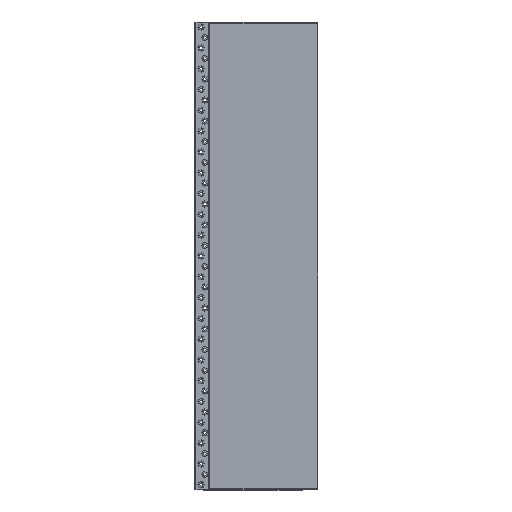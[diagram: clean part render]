
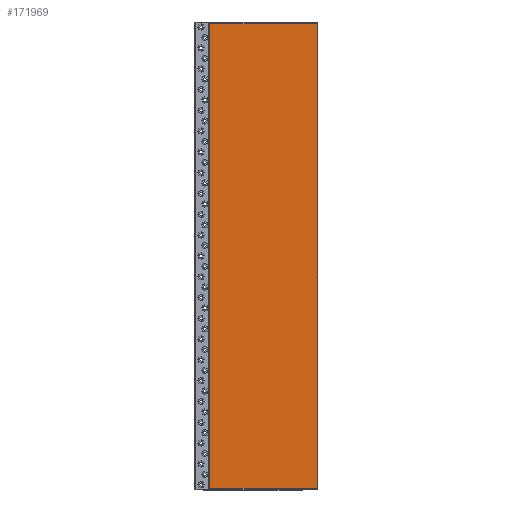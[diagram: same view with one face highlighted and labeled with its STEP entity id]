
A CAD part, top view. The second image highlights one B-rep face of the part: STEP entity #171969.
In plain terms, the highlighted planar face has unit normal (0, 0, 1).
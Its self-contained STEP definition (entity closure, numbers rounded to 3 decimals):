
#171655 = VERTEX_POINT('',#171656);
#171656 = CARTESIAN_POINT('',(12645.662,3.,
    0.));
#171663 = PLANE('',#171664);
#171664 = AXIS2_PLACEMENT_3D('',#171665,#171666,#171667);
#171665 = CARTESIAN_POINT('',(12645.662,3.,
    -25.));
#171666 = DIRECTION('',(0.,1.,0.));
#171667 = DIRECTION('',(1.,0.,0.));
#171675 = PLANE('',#171676);
#171676 = AXIS2_PLACEMENT_3D('',#171677,#171678,#171679);
#171677 = CARTESIAN_POINT('',(12645.662,897.,
    -25.));
#171678 = DIRECTION('',(1.,0.,0.));
#171679 = DIRECTION('',(0.,-1.,0.));
#171687 = EDGE_CURVE('',#171655,#171688,#171690,.T.);
#171688 = VERTEX_POINT('',#171689);
#171689 = CARTESIAN_POINT('',(12853.162,3.,
    0.));
#171690 = SURFACE_CURVE('',#171691,(#171695,#171702),.PCURVE_S1.);
#171691 = LINE('',#171692,#171693);
#171692 = CARTESIAN_POINT('',(12645.662,3.,
    0.));
#171693 = VECTOR('',#171694,1.);
#171694 = DIRECTION('',(1.,0.,0.));
#171695 = PCURVE('',#171663,#171696);
#171696 = DEFINITIONAL_REPRESENTATION('',(#171697),#171701);
#171697 = LINE('',#171698,#171699);
#171698 = CARTESIAN_POINT('',(0.,-25.));
#171699 = VECTOR('',#171700,1.);
#171700 = DIRECTION('',(1.,0.));
#171701 = ( GEOMETRIC_REPRESENTATION_CONTEXT(2) 
PARAMETRIC_REPRESENTATION_CONTEXT() REPRESENTATION_CONTEXT('2D SPACE',''
  ) );
#171702 = PCURVE('',#171703,#171708);
#171703 = PLANE('',#171704);
#171704 = AXIS2_PLACEMENT_3D('',#171705,#171706,#171707);
#171705 = CARTESIAN_POINT('',(12749.412,450.,
    0.));
#171706 = DIRECTION('',(0.,0.,1.));
#171707 = DIRECTION('',(1.,0.,0.));
#171708 = DEFINITIONAL_REPRESENTATION('',(#171709),#171713);
#171709 = LINE('',#171710,#171711);
#171710 = CARTESIAN_POINT('',(-103.75,-447.));
#171711 = VECTOR('',#171712,1.);
#171712 = DIRECTION('',(1.,0.));
#171713 = ( GEOMETRIC_REPRESENTATION_CONTEXT(2) 
PARAMETRIC_REPRESENTATION_CONTEXT() REPRESENTATION_CONTEXT('2D SPACE',''
  ) );
#171731 = PLANE('',#171732);
#171732 = AXIS2_PLACEMENT_3D('',#171733,#171734,#171735);
#171733 = CARTESIAN_POINT('',(12853.162,3.,
    -25.));
#171734 = DIRECTION('',(-1.,0.,0.));
#171735 = DIRECTION('',(0.,1.,0.));
#171773 = EDGE_CURVE('',#171688,#171774,#171776,.T.);
#171774 = VERTEX_POINT('',#171775);
#171775 = CARTESIAN_POINT('',(12853.162,897.,
    0.));
#171776 = SURFACE_CURVE('',#171777,(#171781,#171788),.PCURVE_S1.);
#171777 = LINE('',#171778,#171779);
#171778 = CARTESIAN_POINT('',(12853.162,3.,
    0.));
#171779 = VECTOR('',#171780,1.);
#171780 = DIRECTION('',(0.,1.,0.));
#171781 = PCURVE('',#171731,#171782);
#171782 = DEFINITIONAL_REPRESENTATION('',(#171783),#171787);
#171783 = LINE('',#171784,#171785);
#171784 = CARTESIAN_POINT('',(0.,-25.));
#171785 = VECTOR('',#171786,1.);
#171786 = DIRECTION('',(1.,0.));
#171787 = ( GEOMETRIC_REPRESENTATION_CONTEXT(2) 
PARAMETRIC_REPRESENTATION_CONTEXT() REPRESENTATION_CONTEXT('2D SPACE',''
  ) );
#171788 = PCURVE('',#171703,#171789);
#171789 = DEFINITIONAL_REPRESENTATION('',(#171790),#171794);
#171790 = LINE('',#171791,#171792);
#171791 = CARTESIAN_POINT('',(103.75,-447.));
#171792 = VECTOR('',#171793,1.);
#171793 = DIRECTION('',(0.,1.));
#171794 = ( GEOMETRIC_REPRESENTATION_CONTEXT(2) 
PARAMETRIC_REPRESENTATION_CONTEXT() REPRESENTATION_CONTEXT('2D SPACE',''
  ) );
#171812 = PLANE('',#171813);
#171813 = AXIS2_PLACEMENT_3D('',#171814,#171815,#171816);
#171814 = CARTESIAN_POINT('',(12853.162,897.,
    -25.));
#171815 = DIRECTION('',(0.,-1.,0.));
#171816 = DIRECTION('',(-1.,0.,0.));
#171849 = EDGE_CURVE('',#171774,#171850,#171852,.T.);
#171850 = VERTEX_POINT('',#171851);
#171851 = CARTESIAN_POINT('',(12645.662,897.,
    0.));
#171852 = SURFACE_CURVE('',#171853,(#171857,#171864),.PCURVE_S1.);
#171853 = LINE('',#171854,#171855);
#171854 = CARTESIAN_POINT('',(12853.162,897.,
    0.));
#171855 = VECTOR('',#171856,1.);
#171856 = DIRECTION('',(-1.,0.,0.));
#171857 = PCURVE('',#171812,#171858);
#171858 = DEFINITIONAL_REPRESENTATION('',(#171859),#171863);
#171859 = LINE('',#171860,#171861);
#171860 = CARTESIAN_POINT('',(0.,-25.));
#171861 = VECTOR('',#171862,1.);
#171862 = DIRECTION('',(1.,0.));
#171863 = ( GEOMETRIC_REPRESENTATION_CONTEXT(2) 
PARAMETRIC_REPRESENTATION_CONTEXT() REPRESENTATION_CONTEXT('2D SPACE',''
  ) );
#171864 = PCURVE('',#171703,#171865);
#171865 = DEFINITIONAL_REPRESENTATION('',(#171866),#171870);
#171866 = LINE('',#171867,#171868);
#171867 = CARTESIAN_POINT('',(103.75,447.));
#171868 = VECTOR('',#171869,1.);
#171869 = DIRECTION('',(-1.,0.));
#171870 = ( GEOMETRIC_REPRESENTATION_CONTEXT(2) 
PARAMETRIC_REPRESENTATION_CONTEXT() REPRESENTATION_CONTEXT('2D SPACE',''
  ) );
#171920 = EDGE_CURVE('',#171850,#171655,#171921,.T.);
#171921 = SURFACE_CURVE('',#171922,(#171926,#171933),.PCURVE_S1.);
#171922 = LINE('',#171923,#171924);
#171923 = CARTESIAN_POINT('',(12645.662,897.,
    0.));
#171924 = VECTOR('',#171925,1.);
#171925 = DIRECTION('',(0.,-1.,0.));
#171926 = PCURVE('',#171675,#171927);
#171927 = DEFINITIONAL_REPRESENTATION('',(#171928),#171932);
#171928 = LINE('',#171929,#171930);
#171929 = CARTESIAN_POINT('',(0.,-25.));
#171930 = VECTOR('',#171931,1.);
#171931 = DIRECTION('',(1.,0.));
#171932 = ( GEOMETRIC_REPRESENTATION_CONTEXT(2) 
PARAMETRIC_REPRESENTATION_CONTEXT() REPRESENTATION_CONTEXT('2D SPACE',''
  ) );
#171933 = PCURVE('',#171703,#171934);
#171934 = DEFINITIONAL_REPRESENTATION('',(#171935),#171939);
#171935 = LINE('',#171936,#171937);
#171936 = CARTESIAN_POINT('',(-103.75,447.));
#171937 = VECTOR('',#171938,1.);
#171938 = DIRECTION('',(0.,-1.));
#171939 = ( GEOMETRIC_REPRESENTATION_CONTEXT(2) 
PARAMETRIC_REPRESENTATION_CONTEXT() REPRESENTATION_CONTEXT('2D SPACE',''
  ) );
#171969 = ADVANCED_FACE('',(#171970),#171703,.T.);
#171970 = FACE_BOUND('',#171971,.T.);
#171971 = EDGE_LOOP('',(#171972,#171973,#171974,#171975));
#171972 = ORIENTED_EDGE('',*,*,#171687,.T.);
#171973 = ORIENTED_EDGE('',*,*,#171773,.T.);
#171974 = ORIENTED_EDGE('',*,*,#171849,.T.);
#171975 = ORIENTED_EDGE('',*,*,#171920,.T.);
